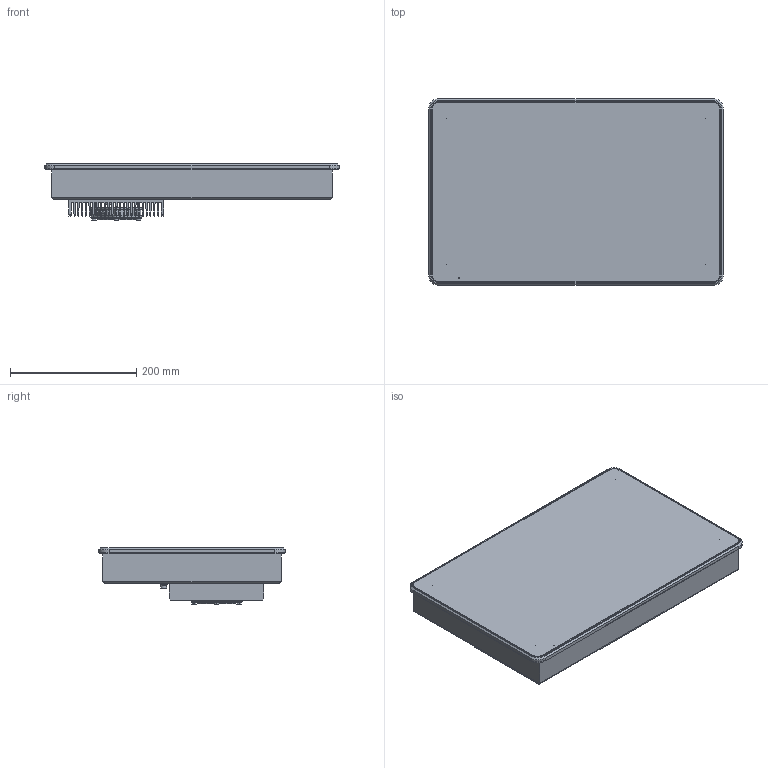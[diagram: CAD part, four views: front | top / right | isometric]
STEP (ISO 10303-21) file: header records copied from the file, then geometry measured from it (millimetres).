
FILE_DESCRIPTION(/* description */ (''),/* implementation_level */ '2;1');
FILE_NAME(/* name */ 'C:\SAPInventorWork\778-41949-00_EXTERN.stp',/* time_stamp */ '2025-01-31T08:50:04+01:00',/* author */ ('Aiple'),/* organization */ (''),/* preprocessor_version */ 'ST-DEVELOPER v18.1',/* originating_system */ 'Autodesk Inventor 2021',/* authorisation */ '');
FILE_SCHEMA (('AUTOMOTIVE_DESIGN { 1 0 10303 214 3 1 1 }'));
Products named in the file (1): 778-41949-00
Bounding box: 466.5 x 295.6 x 89.4 mm (x, y, z)
Volume: 6621749 mm3; surface area: 564688.3 mm2
Topology: 9 solids, 74 shells, 8301 faces, 24127 edges, 16010 vertices
Faces by surface type: plane 5158, cylinder 1927, bspline 870, cone 241, torus 72, sphere 33
Full cylindrical faces by diameter (mm): 0.457 x1, 0.65 x16, 0.95 x32, 1.2 x27, 2.156 x2, 2.459 x18, 2.5 x2, 2.8 x6, 2.9 x2, 2.91 x2, 3 x10, 3.242 x16, 3.5 x6, 4 x10, 4.22 x8, 4.3 x12, 4.5 x8, 4.7 x2, 4.917 x4, 5 x3, 5.2 x1, 5.3 x2, 5.38 x12, 5.4 x12, 5.54 x4, 5.7 x9, 6.85 x3, 7 x4, 7.06 x1, 8.4 x8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
Entity records: 301769 total; most frequent: CARTESIAN_POINT 77869, ORIENTED_EDGE 46800, DIRECTION 40827, EDGE_CURVE 24139, LINE 16893, VECTOR 16893, VERTEX_POINT 16042, AXIS2_PLACEMENT_3D 11967
